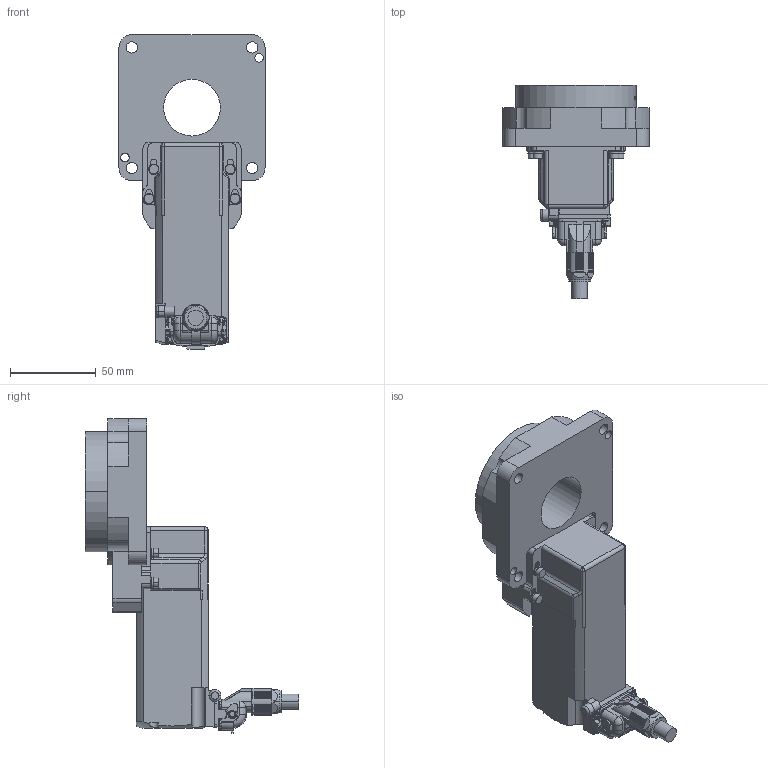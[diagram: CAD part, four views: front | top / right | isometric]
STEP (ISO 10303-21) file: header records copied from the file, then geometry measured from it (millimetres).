
FILE_DESCRIPTION (( 'STEP AP203' ), '1' );
FILE_NAME ('DGR85R36-AZACHD_V.step', '2025-11-19T07:35:27', ( '' ), ( '' ), 'SwSTEP 2.0', 'SolidWorks 2023', '' );
FILE_SCHEMA (( 'CONFIG_CONTROL_DESIGN' ));
Length unit declared in the file: millimetre
Products named in the file (3): DGR85R36-AZACHD_V_Moving part; DGR85R36-AZACHD_V; DGR85R36-AZACHD_V_Base
Assembly tree (2 placements, depth 2):
  DGR85R36-AZACHD_V
    DGR85R36-AZACHD_V_Base
    DGR85R36-AZACHD_V_Moving part
Bounding box: 85 x 123.9 x 183.05 mm (x, y, z)
Volume: 391614.6 mm3; surface area: 65588.5 mm2
Topology: 2 solids, 6 shells, 805 faces, 2186 edges, 1395 vertices
Faces by surface type: plane 409, cylinder 328, cone 36, torus 20, sphere 6, bspline 6
Entity records: 25942 total; most frequent: CARTESIAN_POINT 5017, DIRECTION 4435, ORIENTED_EDGE 4304, EDGE_CURVE 2152, AXIS2_PLACEMENT_3D 1561, VERTEX_POINT 1395, LINE 1313, VECTOR 1313
